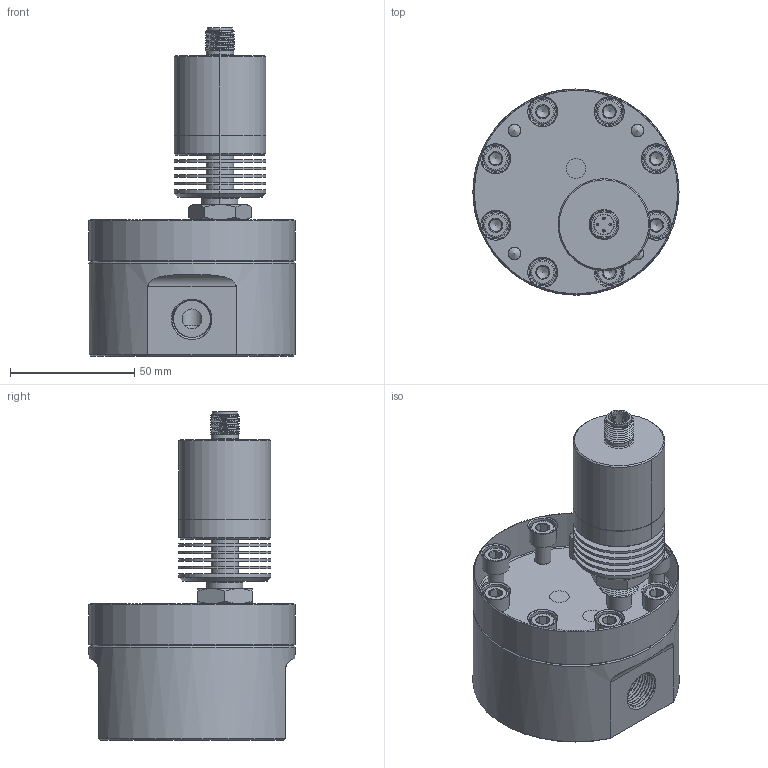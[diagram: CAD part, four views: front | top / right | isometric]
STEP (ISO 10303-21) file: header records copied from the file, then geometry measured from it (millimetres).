
FILE_DESCRIPTION( (''), '2;1');
FILE_NAME( 'QZKD_M4_G3-8_M12_high-temp.step', '2024-06-05T08:22:40+08:00', (''), (''), '', '', '');
FILE_SCHEMA (('AUTOMOTIVE_DESIGN { 1 0 10303 214 3 1 1 1 }'));
Length unit declared in the file: millimetre
Products named in the file (2): QZKD part 01; QZKD M4_G3-8_M12_high-temp
Assembly tree (1 placements, depth 2):
  QZKD M4_G3-8_M12_high-temp
    QZKD part 01
Bounding box: 83 x 83 x 132.2 mm (x, y, z)
Volume: 333391.7 mm3; surface area: 79309.9 mm2
Topology: 14 solids, 14 shells, 536 faces, 1219 edges, 730 vertices
Faces by surface type: plane 173, cone 153, cylinder 137, bspline 37, torus 20, sphere 16
Full cylindrical faces by diameter (mm): 5 x18, 5.795 x8, 6.5 x8, 8 x4, 10 x9, 11 x8, 83 x2
Entity records: 26455 total; most frequent: CARTESIAN_POINT 15615, DIRECTION 2203, ORIENTED_EDGE 1994, EDGE_CURVE 997, AXIS2_PLACEMENT_3D 970, EDGE_LOOP 723, VERTEX_POINT 684, ADVANCED_FACE 534
